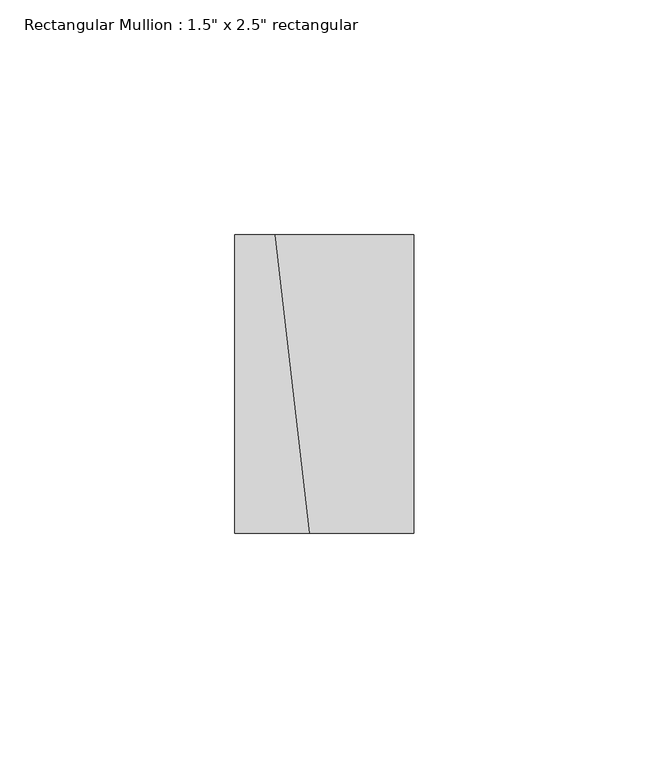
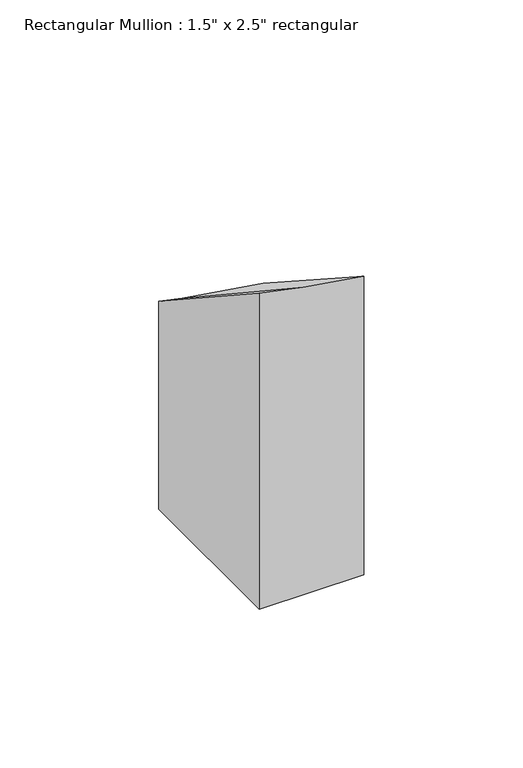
"""IFC4 building model written with IfcOpenShell, lengths in millimetres: member geometry."""

from ifc_helpers import new_model, si_unit, origin, place, context, project, spatial, faceted_brep, source, transform, mapped, element, save


def member_413a7bc5(model_context):
    return source(origin(), model_context, "Body", "Brep", [
        faceted_brep([(19.05, 31.75, -135.4229069), (19.05, -31.75, -135.4229069), (-19.05, -31.75, -135.4229069), (-19.05, 31.75, -135.4229069), (-19.05, 31.75, -55.3972818), (-10.442874, 31.75, -57.1901917), (19.05, 31.75, -61.8242365), (-19.05, -31.75, -13.7492038), (19.05, -31.75, -20.5511231), (-3.1166383, -31.75, -17.0682074)], [[[0, 1, 2, 3]], [[4, 5, 6, 0, 3]], [[7, 4, 3, 2]], [[8, 9, 7, 2, 1]], [[6, 8, 1, 0]], [[6, 5, 9, 8]], [[5, 4, 7, 9]]]),
    ])


if __name__ == "__main__":
    model = new_model("IFC4")
    model_context = context("Model", 3, world=origin())
    ifc_project = project(units=[si_unit("LENGTHUNIT", "METRE", prefix="MILLI")], contexts=[model_context])
    site = spatial("IfcSite", under=ifc_project)
    building = spatial("IfcBuilding", under=site)
    placement = place(None, origin())
    member_shape = member_413a7bc5(model_context)
    element("IfcMember", 1, ObjectType="Rectangular Mullion : 1.5\" x 2.5\" rectangular", at=placement, inside=building, context=model_context, shape_type="MappedRepresentation", body=[
        mapped(member_shape, transform((0.0, 0.0, 0.0), x_axis=(1.0, 0.0, 0.0), y_axis=(0.0, 1.0, 0.0), z_axis=(0.0, 0.0, 1.0))),
    ])
    save(model, "model.ifc")
